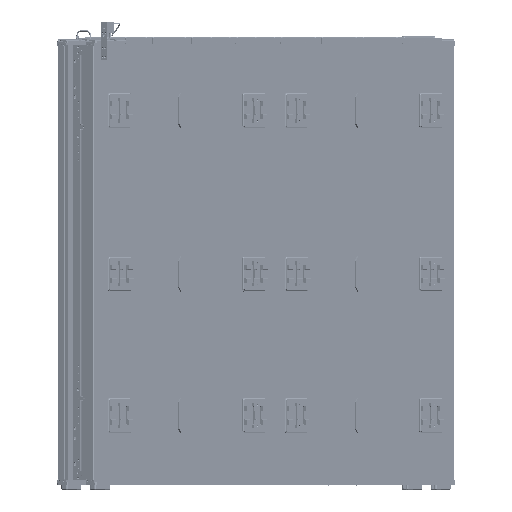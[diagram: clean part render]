
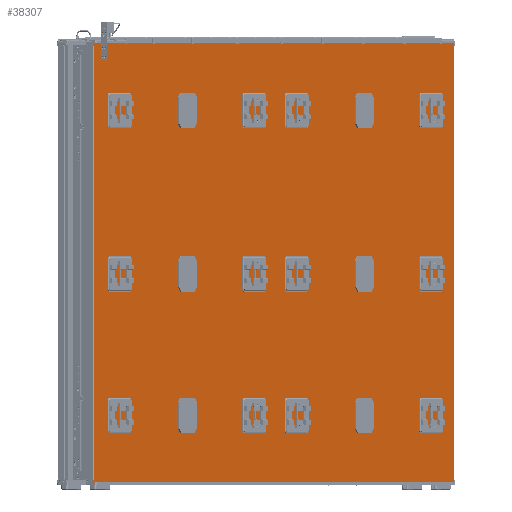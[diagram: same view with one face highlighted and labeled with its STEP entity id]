
A CAD part, left-side view. The second image highlights one B-rep face of the part: STEP entity #38307.
In plain terms, the highlighted planar face has unit normal (-0.5, -0.866, 0).
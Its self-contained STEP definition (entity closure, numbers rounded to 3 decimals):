
#38307=ADVANCED_FACE('',(#53058),#46770,.T.);
#46770=PLANE('',#218833);
#53058=FACE_OUTER_BOUND('',#64855,.T.);
#64855=EDGE_LOOP('',(#99907,#99908,#99909,#99910));
#99907=ORIENTED_EDGE('',*,*,#161426,.T.);
#99908=ORIENTED_EDGE('',*,*,#161422,.T.);
#99909=ORIENTED_EDGE('',*,*,#161427,.F.);
#99910=ORIENTED_EDGE('',*,*,#161428,.T.);
#137899=VERTEX_POINT('',#333289);
#137900=VERTEX_POINT('',#333290);
#137903=VERTEX_POINT('',#333298);
#137904=VERTEX_POINT('',#333300);
#161422=EDGE_CURVE('',#137899,#137900,#184027,.T.);
#161426=EDGE_CURVE('',#137903,#137899,#184031,.T.);
#161427=EDGE_CURVE('',#137904,#137900,#184032,.T.);
#161428=EDGE_CURVE('',#137904,#137903,#184033,.T.);
#184027=LINE('',#333288,#200954);
#184031=LINE('',#333297,#200958);
#184032=LINE('',#333299,#200959);
#184033=LINE('',#333301,#200960);
#200954=VECTOR('',#256532,1.);
#200958=VECTOR('',#256538,1.);
#200959=VECTOR('',#256539,1.);
#200960=VECTOR('',#256540,1.);
#218833=AXIS2_PLACEMENT_3D('',#333302,#256541,#256542);
#256532=DIRECTION('',(0.866,-0.5,0.));
#256538=DIRECTION('',(0.,0.,-1.));
#256539=DIRECTION('',(0.,0.,-1.));
#256540=DIRECTION('',(-0.866,0.5,0.));
#256541=DIRECTION('',(-0.5,-0.866,0.));
#256542=DIRECTION('',(0.866,-0.5,0.));
#333288=CARTESIAN_POINT('',(4323.437,5674.523,4090.));
#333289=CARTESIAN_POINT('',(2559.344,6693.023,4090.));
#333290=CARTESIAN_POINT('',(6087.531,4656.023,4090.));
#333297=CARTESIAN_POINT('',(2559.344,6693.023,6577.));
#333298=CARTESIAN_POINT('',(2559.344,6693.023,6577.));
#333299=CARTESIAN_POINT('',(6087.531,4656.023,6577.));
#333300=CARTESIAN_POINT('',(6087.531,4656.023,6577.));
#333301=CARTESIAN_POINT('',(4323.437,5674.523,6577.));
#333302=CARTESIAN_POINT('',(4323.437,5674.523,6577.));
